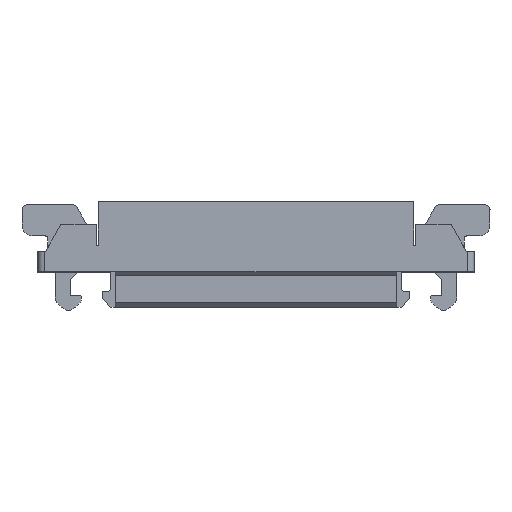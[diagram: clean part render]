
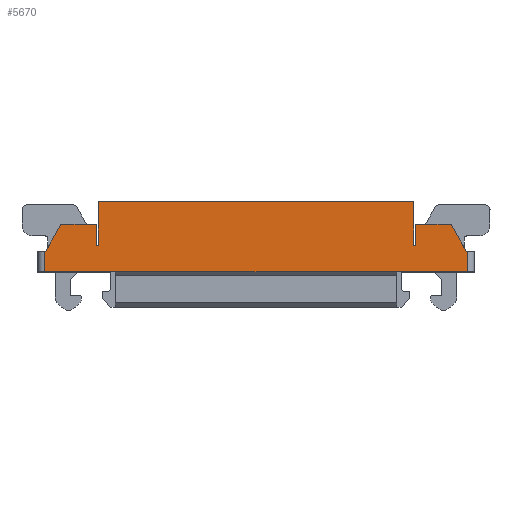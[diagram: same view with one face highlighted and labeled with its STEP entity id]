
A CAD part, top view. The second image highlights one B-rep face of the part: STEP entity #5670.
In plain terms, the highlighted planar face has unit normal (0, 0, 1).
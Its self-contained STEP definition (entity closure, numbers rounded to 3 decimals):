
#2210=CARTESIAN_POINT('',(72.061,-20.28,6.6))
;
#2220=VERTEX_POINT('',#2210);
#2620=CARTESIAN_POINT('',(31.131,-20.28,6.6))
;
#2630=VERTEX_POINT('',#2620);
#2660=CARTESIAN_POINT('',(19.05,-20.28,6.6));
#2670=DIRECTION('',(1.,0.,0.));
#2680=VECTOR('',#2670,1.);
#2690=LINE('',#2660,#2680);
#2700=EDGE_CURVE('',#2630,#2220,#2690,.T.);
#3020=CARTESIAN_POINT('',(31.231,-18.28,6.6))
;
#3030=VERTEX_POINT('',#3020);
#3060=CARTESIAN_POINT('',(0.,-18.28,6.6));
#3070=DIRECTION('',(1.,0.,0.));
#3080=VECTOR('',#3070,1.);
#3090=LINE('',#3060,#3080);
#3100=CARTESIAN_POINT('',(31.131,-18.28,6.6))
;
#3110=VERTEX_POINT('',#3100);
#3120=EDGE_CURVE('',#3110,#3030,#3090,.T.);
#3980=CARTESIAN_POINT('',(36.331,-13.48,
6.6));
#3990=VERTEX_POINT('',#3980);
#4020=CARTESIAN_POINT('',(36.331,-14.951,
6.6));
#4030=DIRECTION('',(0.,-1.,0.));
#4040=VECTOR('',#4030,1.);
#4050=LINE('',#4020,#4040);
#4060=CARTESIAN_POINT('',(36.331,-17.68,
6.6));
#4070=VERTEX_POINT('',#4060);
#4080=EDGE_CURVE('',#3990,#4070,#4050,.T.);
#4630=CARTESIAN_POINT('',(48.421,-18.98,
6.6));
#4640=DIRECTION('',(0.,0.,1.));
#4650=DIRECTION('',(1.,0.,0.));
#4660=AXIS2_PLACEMENT_3D('',#4630,#4640,#4650);
#4670=PLANE('',#4660);
#4680=CARTESIAN_POINT('',(67.061,0.,6.6));
#4690=DIRECTION('',(0.,1.,0.));
#4700=VECTOR('',#4690,1.);
#4710=LINE('',#4680,#4700);
#4720=CARTESIAN_POINT('',(67.061,-17.68,
6.6));
#4730=VERTEX_POINT('',#4720);
#4740=CARTESIAN_POINT('',(67.061,-15.68,
6.6));
#4750=VERTEX_POINT('',#4740);
#4760=EDGE_CURVE('',#4730,#4750,#4710,.T.);
#4770=ORIENTED_EDGE('',*,*,#4760,.F.);
#4780=CARTESIAN_POINT('',(6.35,-15.68,
6.6));
#4790=DIRECTION('',(1.,0.,0.));
#4800=VECTOR('',#4790,1.);
#4810=LINE('',#4780,#4800);
#4820=CARTESIAN_POINT('',(70.511,-15.68,
6.6));
#4830=VERTEX_POINT('',#4820);
#4840=EDGE_CURVE('',#4750,#4830,#4810,.T.);
#4850=ORIENTED_EDGE('',*,*,#4840,.F.);
#4860=CARTESIAN_POINT('',(61.766,0.,6.6));
#4870=DIRECTION('',(0.487,-0.873,0.));
#4880=VECTOR('',#4870,1.);
#4890=LINE('',#4860,#4880);
#4900=CARTESIAN_POINT('',(71.961,-18.28,6.6))
;
#4910=VERTEX_POINT('',#4900);
#4920=EDGE_CURVE('',#4830,#4910,#4890,.T.);
#4930=ORIENTED_EDGE('',*,*,#4920,.F.);
#4940=CARTESIAN_POINT('',(6.35,-18.28,6.6))
;
#4950=DIRECTION('',(1.,0.,0.));
#4960=VECTOR('',#4950,1.);
#4970=LINE('',#4940,#4960);
#4980=CARTESIAN_POINT('',(72.061,-18.28,6.6))
;
#4990=VERTEX_POINT('',#4980);
#5000=EDGE_CURVE('',#4910,#4990,#4970,.T.);
#5010=ORIENTED_EDGE('',*,*,#5000,.F.);
#5020=CARTESIAN_POINT('',(72.061,0.,6.6));
#5030=DIRECTION('',(0.,-1.,0.));
#5040=VECTOR('',#5030,1.);
#5050=LINE('',#5020,#5040);
#5060=EDGE_CURVE('',#4990,#2220,#5050,.T.);
#5070=ORIENTED_EDGE('',*,*,#5060,.F.);
#5080=ORIENTED_EDGE('',*,*,#2700,.T.);
#5090=CARTESIAN_POINT('',(31.131,0.,6.6));
#5100=DIRECTION('',(0.,1.,0.));
#5110=VECTOR('',#5100,1.);
#5120=LINE('',#5090,#5110);
#5130=EDGE_CURVE('',#2630,#3110,#5120,.T.);
#5140=ORIENTED_EDGE('',*,*,#5130,.F.);
#5150=ORIENTED_EDGE('',*,*,#3120,.F.);
#5160=CARTESIAN_POINT('',(41.425,0.,6.6));
#5170=DIRECTION('',(0.487,0.873,0.));
#5180=VECTOR('',#5170,1.);
#5190=LINE('',#5160,#5180);
#5200=CARTESIAN_POINT('',(32.681,-15.68,
6.6));
#5210=VERTEX_POINT('',#5200);
#5220=EDGE_CURVE('',#3030,#5210,#5190,.T.);
#5230=ORIENTED_EDGE('',*,*,#5220,.F.);
#5240=CARTESIAN_POINT('',(0.,-15.68,6.6));
#5250=DIRECTION('',(1.,0.,0.));
#5260=VECTOR('',#5250,1.);
#5270=LINE('',#5240,#5260);
#5280=CARTESIAN_POINT('',(36.131,-15.68,
6.6));
#5290=VERTEX_POINT('',#5280);
#5300=EDGE_CURVE('',#5210,#5290,#5270,.T.);
#5310=ORIENTED_EDGE('',*,*,#5300,.F.);
#5320=CARTESIAN_POINT('',(36.131,0.,6.6));
#5330=DIRECTION('',(0.,-1.,0.));
#5340=VECTOR('',#5330,1.);
#5350=LINE('',#5320,#5340);
#5360=CARTESIAN_POINT('',(36.131,-17.68,
6.6));
#5370=VERTEX_POINT('',#5360);
#5380=EDGE_CURVE('',#5290,#5370,#5350,.T.);
#5390=ORIENTED_EDGE('',*,*,#5380,.F.);
#5400=CARTESIAN_POINT('',(24.13,-17.68,
6.6));
#5410=DIRECTION('',(1.,0.,0.));
#5420=VECTOR('',#5410,1.);
#5430=LINE('',#5400,#5420);
#5440=EDGE_CURVE('',#5370,#4070,#5430,.T.);
#5450=ORIENTED_EDGE('',*,*,#5440,.F.);
#5460=ORIENTED_EDGE('',*,*,#4080,.T.);
#5470=CARTESIAN_POINT('',(0.,-13.48,6.6));
#5480=DIRECTION('',(1.,0.,-0.));
#5490=VECTOR('',#5480,1.);
#5500=LINE('',#5470,#5490);
#5510=CARTESIAN_POINT('',(66.861,-13.48,
6.6));
#5520=VERTEX_POINT('',#5510);
#5530=EDGE_CURVE('',#3990,#5520,#5500,.T.);
#5540=ORIENTED_EDGE('',*,*,#5530,.F.);
#5550=CARTESIAN_POINT('',(66.861,-17.68,
6.6));
#5560=DIRECTION('',(0.,1.,0.));
#5570=VECTOR('',#5560,1.);
#5580=LINE('',#5550,#5570);
#5590=CARTESIAN_POINT('',(66.861,-17.68,
6.6));
#5600=VERTEX_POINT('',#5590);
#5610=EDGE_CURVE('',#5600,#5520,#5580,.T.);
#5620=ORIENTED_EDGE('',*,*,#5610,.T.);
#5630=EDGE_CURVE('',#5600,#4730,#5430,.T.);
#5640=ORIENTED_EDGE('',*,*,#5630,.F.);
#5650=EDGE_LOOP('',(#5640,#5620,#5540,#5460,#5450,#5390,#5310,#5230,
#5150,#5140,#5080,#5070,#5010,#4930,#4850,#4770));
#5660=FACE_OUTER_BOUND('',#5650,.T.);
#5670=ADVANCED_FACE('',(#5660),#4670,.T.);
